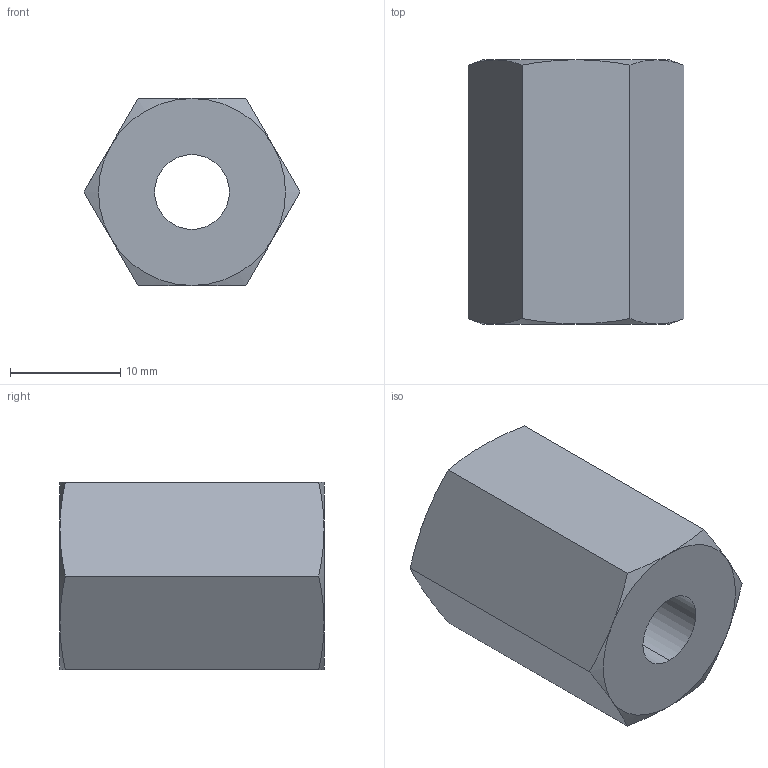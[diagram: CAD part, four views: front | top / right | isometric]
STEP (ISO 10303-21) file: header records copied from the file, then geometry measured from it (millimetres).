
FILE_DESCRIPTION (( 'STEP AP203' ), '1' );
FILE_NAME ('084.802.027.STEP', '2013-01-29T09:39:33', ( 'Alusic' ), ( 'Alusic' ), 'SwSTEP 2.0', 'SolidWorks 2011', '' );
FILE_SCHEMA (( 'CONFIG_CONTROL_DESIGN' ));
Length unit declared in the file: millimetre
Products named in the file (1): 084.802.027
Bounding box: 19.63 x 24 x 17 mm (x, y, z)
Volume: 5128.4 mm3; surface area: 2337.6 mm2
Topology: 1 solids, 1 shells, 22 faces, 48 edges, 28 vertices
Faces by surface type: cone 12, plane 8, cylinder 2
Entity records: 745 total; most frequent: CARTESIAN_POINT 219, ORIENTED_EDGE 96, DIRECTION 86, EDGE_CURVE 48, AXIS2_PLACEMENT_3D 39, VERTEX_POINT 28, EDGE_LOOP 24, B_SPLINE_CURVE_WITH_KNOTS 24
